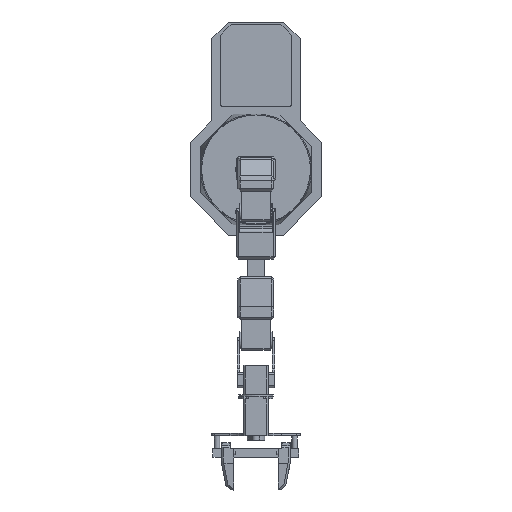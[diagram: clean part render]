
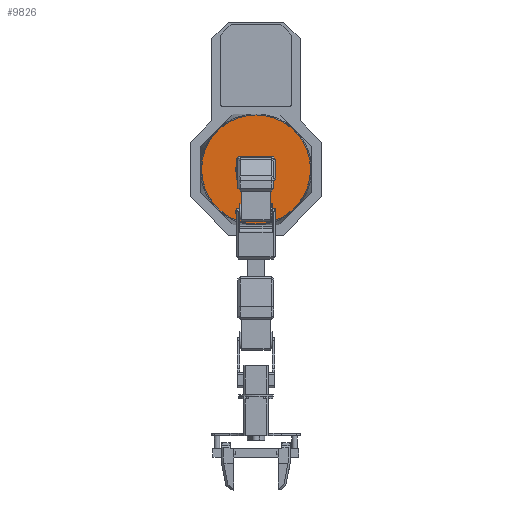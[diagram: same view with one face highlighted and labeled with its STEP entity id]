
A CAD part, top view. The second image highlights one B-rep face of the part: STEP entity #9826.
In plain terms, the highlighted planar face has unit normal (0, 0, 1).
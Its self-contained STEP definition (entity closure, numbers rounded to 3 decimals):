
#427=CIRCLE('',#10592,63.5);
#428=CIRCLE('',#10593,63.5);
#821=FACE_OUTER_BOUND('',#1402,.T.);
#1402=EDGE_LOOP('',(#6930,#6931));
#4174=VERTEX_POINT('',#14844);
#4175=VERTEX_POINT('',#14845);
#5197=EDGE_CURVE('',#4174,#4175,#427,.T.);
#5198=EDGE_CURVE('',#4175,#4174,#428,.T.);
#6930=ORIENTED_EDGE('',*,*,#5197,.T.);
#6931=ORIENTED_EDGE('',*,*,#5198,.T.);
#9393=PLANE('',#10597);
#9826=ADVANCED_FACE('',(#821),#9393,.T.);
#10592=AXIS2_PLACEMENT_3D('',#14846,#11868,#11869);
#10593=AXIS2_PLACEMENT_3D('',#14847,#11870,#11871);
#10597=AXIS2_PLACEMENT_3D('',#14854,#11879,#11880);
#11868=DIRECTION('center_axis',(0.,0.,
1.));
#11869=DIRECTION('ref_axis',(-1.,0.,0.));
#11870=DIRECTION('center_axis',(0.,0.,
1.));
#11871=DIRECTION('ref_axis',(-1.,0.,0.));
#11879=DIRECTION('center_axis',(0.,0.,
1.));
#11880=DIRECTION('ref_axis',(-1.,0.,0.));
#14844=CARTESIAN_POINT('',(-63.503,0.,64.16));
#14845=CARTESIAN_POINT('',(63.497,0.,64.16));
#14846=CARTESIAN_POINT('Origin',(-0.003,0.,
64.16));
#14847=CARTESIAN_POINT('Origin',(-0.003,0.,
64.16));
#14854=CARTESIAN_POINT('Origin',(-0.003,0.,
64.16));
